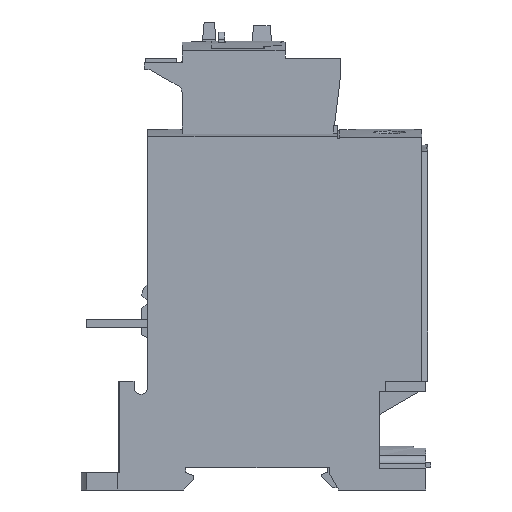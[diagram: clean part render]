
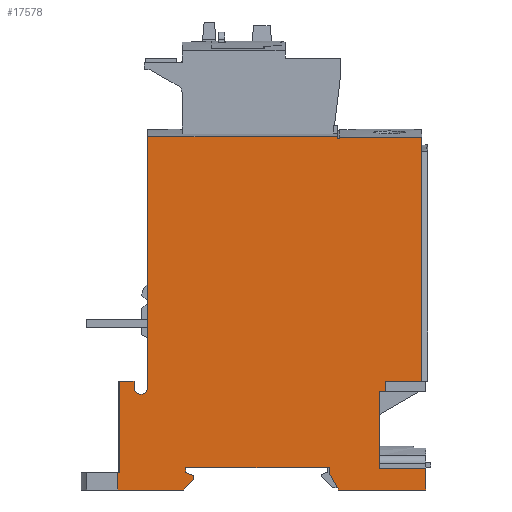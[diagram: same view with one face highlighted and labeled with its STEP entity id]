
A CAD part, left-side view. The second image highlights one B-rep face of the part: STEP entity #17578.
In plain terms, the highlighted planar face has unit normal (-1, 0, 0).
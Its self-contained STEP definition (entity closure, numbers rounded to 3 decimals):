
#695=DIRECTION('',(0.,0.,-1.));
#696=VECTOR('',#695,0.404);
#697=CARTESIAN_POINT('',(0.6,24.8,87.314));
#698=LINE('',#697,#696);
#702=DIRECTION('',(0.,0.,-1.));
#703=VECTOR('',#702,60.394);
#704=CARTESIAN_POINT('',(0.6,4.5,87.314));
#705=LINE('',#704,#703);
#709=DIRECTION('',(0.,1.,0.));
#710=VECTOR('',#709,9.);
#711=CARTESIAN_POINT('',(0.6,4.5,26.92));
#712=LINE('',#711,#710);
#716=DIRECTION('',(0.,1.,0.));
#717=VECTOR('',#716,1.5);
#718=CARTESIAN_POINT('',(0.6,13.5,24.42));
#719=LINE('',#718,#717);
#723=DIRECTION('',(0.,1.,0.));
#724=VECTOR('',#723,16.35);
#725=CARTESIAN_POINT('',(0.6,63.4,0.));
#726=LINE('',#725,#724);
#730=DIRECTION('',(0.,1.,0.));
#731=VECTOR('',#730,20.3);
#732=CARTESIAN_POINT('',(0.6,4.5,87.314));
#733=LINE('',#732,#731);
#2442=DIRECTION('',(0.,0.,1.));
#2443=VECTOR('',#2442,2.5);
#2444=CARTESIAN_POINT('',(0.6,13.5,24.42));
#2445=LINE('',#2444,#2443);
#2627=DIRECTION('',(0.,0.,1.));
#2628=VECTOR('',#2627,19.);
#2629=CARTESIAN_POINT('',(0.6,15.,5.42));
#2630=LINE('',#2629,#2628);
#2876=DIRECTION('',(0.,0.,-1.));
#2877=VECTOR('',#2876,5.42);
#2878=CARTESIAN_POINT('',(0.6,3.5,5.42));
#2879=LINE('',#2878,#2877);
#2941=DIRECTION('',(0.,-1.,0.));
#2942=VECTOR('',#2941,11.5);
#2943=CARTESIAN_POINT('',(0.6,15.,5.42));
#2944=LINE('',#2943,#2942);
#3234=DIRECTION('',(0.,1.,0.));
#3235=VECTOR('',#3234,21.591);
#3236=CARTESIAN_POINT('',(0.6,3.5,0.));
#3237=LINE('',#3236,#3235);
#4061=DIRECTION('',(0.,1.,0.));
#4062=VECTOR('',#4061,0.41);
#4063=CARTESIAN_POINT('',(0.6,79.34,4.3));
#4064=LINE('',#4063,#4062);
#4191=DIRECTION('',(0.,0.,-1.));
#4192=VECTOR('',#4191,4.3);
#4193=CARTESIAN_POINT('',(0.6,79.75,4.3));
#4194=LINE('',#4193,#4192);
#4282=DIRECTION('',(0.,-1.,0.));
#4283=VECTOR('',#4282,35.5);
#4284=CARTESIAN_POINT('',(0.6,62.9,5.5));
#4285=LINE('',#4284,#4283);
#5284=DIRECTION('',(0.,0.,-1.));
#5285=VECTOR('',#5284,62.07);
#5286=CARTESIAN_POINT('',(0.6,72.3,87.43));
#5287=LINE('',#5286,#5285);
#5560=DIRECTION('',(0.,-1.,0.));
#5561=VECTOR('',#5560,3.64);
#5562=CARTESIAN_POINT('',(0.6,79.34,26.956));
#5563=LINE('',#5562,#5561);
#6504=DIRECTION('',(0.,0.,1.));
#6505=VECTOR('',#6504,22.656);
#6506=CARTESIAN_POINT('',(0.6,79.34,4.3));
#6507=LINE('',#6506,#6505);
#6571=DIRECTION('',(0.,0.,1.));
#6572=VECTOR('',#6571,1.596);
#6573=CARTESIAN_POINT('',(0.6,75.7,25.36));
#6574=LINE('',#6573,#6572);
#6599=CARTESIAN_POINT('',(0.6,74.,25.36));
#6600=DIRECTION('',(1.,0.,0.));
#6601=DIRECTION('',(0.,-1.,0.));
#6602=AXIS2_PLACEMENT_3D('',#6599,#6600,#6601);
#6765=DIRECTION('',(0.,0.,1.));
#6766=VECTOR('',#6765,1.1);
#6767=CARTESIAN_POINT('',(0.6,62.9,4.4));
#6768=LINE('',#6767,#6766);
#6821=DIRECTION('',(0.,0.912,0.41));
#6822=VECTOR('',#6821,2.193);
#6823=CARTESIAN_POINT('',(0.6,60.9,3.5));
#6824=LINE('',#6823,#6822);
#6849=DIRECTION('',(0.,0.,1.));
#6850=VECTOR('',#6849,1.);
#6851=CARTESIAN_POINT('',(0.6,60.9,2.5));
#6852=LINE('',#6851,#6850);
#6891=DIRECTION('',(0.,-0.707,0.707));
#6892=VECTOR('',#6891,3.536);
#6893=CARTESIAN_POINT('',(0.6,63.4,0.));
#6894=LINE('',#6893,#6892);
#7334=DIRECTION('',(0.,1.,0.));
#7335=VECTOR('',#7334,47.);
#7336=CARTESIAN_POINT('',(0.6,25.3,87.43));
#7337=LINE('',#7336,#7335);
#8579=DIRECTION('',(0.,0.,1.));
#8580=VECTOR('',#8579,0.52);
#8581=CARTESIAN_POINT('',(0.6,25.3,86.91));
#8582=LINE('',#8581,#8580);
#8622=DIRECTION('',(0.,-1.,0.));
#8623=VECTOR('',#8622,0.5);
#8624=CARTESIAN_POINT('',(0.6,25.3,86.91));
#8625=LINE('',#8624,#8623);
#12195=DIRECTION('',(0.,0.,-1.));
#12196=VECTOR('',#12195,1.5);
#12197=CARTESIAN_POINT('',(0.6,27.4,5.5));
#12198=LINE('',#12197,#12196);
#12237=DIRECTION('',(0.,-0.5,-0.866));
#12238=VECTOR('',#12237,4.619);
#12239=CARTESIAN_POINT('',(0.6,27.4,4.));
#12240=LINE('',#12239,#12238);
#15345=CARTESIAN_POINT('',(0.6,3.5,0.));
#15346=CARTESIAN_POINT('',(0.6,25.091,0.));
#15347=VERTEX_POINT('',#15345);
#15348=VERTEX_POINT('',#15346);
#15353=CARTESIAN_POINT('',(0.6,79.34,4.3));
#15354=CARTESIAN_POINT('',(0.6,79.75,4.3));
#15355=VERTEX_POINT('',#15353);
#15356=VERTEX_POINT('',#15354);
#15361=CARTESIAN_POINT('',(0.6,79.34,26.956));
#15362=VERTEX_POINT('',#15361);
#15365=CARTESIAN_POINT('',(0.6,72.3,87.43));
#15366=CARTESIAN_POINT('',(0.6,72.3,25.36));
#15367=VERTEX_POINT('',#15365);
#15368=VERTEX_POINT('',#15366);
#15373=CARTESIAN_POINT('',(0.6,75.7,26.956));
#15374=VERTEX_POINT('',#15373);
#15377=CARTESIAN_POINT('',(0.6,25.3,87.43));
#15378=VERTEX_POINT('',#15377);
#15381=CARTESIAN_POINT('',(0.6,63.4,0.));
#15382=CARTESIAN_POINT('',(0.6,60.9,2.5));
#15383=VERTEX_POINT('',#15381);
#15384=VERTEX_POINT('',#15382);
#15389=CARTESIAN_POINT('',(0.6,60.9,3.5));
#15390=VERTEX_POINT('',#15389);
#15393=CARTESIAN_POINT('',(0.6,62.9,4.4));
#15394=VERTEX_POINT('',#15393);
#15397=CARTESIAN_POINT('',(0.6,62.9,5.5));
#15398=VERTEX_POINT('',#15397);
#15401=CARTESIAN_POINT('',(0.6,27.4,5.5));
#15402=VERTEX_POINT('',#15401);
#15405=CARTESIAN_POINT('',(0.6,27.4,4.));
#15406=VERTEX_POINT('',#15405);
#15409=CARTESIAN_POINT('',(0.6,15.,5.42));
#15410=CARTESIAN_POINT('',(0.6,3.5,5.42));
#15411=VERTEX_POINT('',#15409);
#15412=VERTEX_POINT('',#15410);
#15417=CARTESIAN_POINT('',(0.6,79.75,0.));
#15418=VERTEX_POINT('',#15417);
#15421=CARTESIAN_POINT('',(0.6,75.7,25.36));
#15422=VERTEX_POINT('',#15421);
#15425=CARTESIAN_POINT('',(0.6,25.3,86.91));
#15426=VERTEX_POINT('',#15425);
#15437=CARTESIAN_POINT('',(0.6,13.5,24.42));
#15438=VERTEX_POINT('',#15437);
#15439=CARTESIAN_POINT('',(0.6,15.,24.42));
#15440=VERTEX_POINT('',#15439);
#15866=CARTESIAN_POINT('',(0.6,24.8,87.314));
#15868=VERTEX_POINT('',#15866);
#15869=CARTESIAN_POINT('',(0.6,24.8,86.91));
#15870=VERTEX_POINT('',#15869);
#15879=CARTESIAN_POINT('',(0.6,13.5,26.92));
#15880=VERTEX_POINT('',#15879);
#16577=CARTESIAN_POINT('',(0.6,4.5,87.314));
#16578=CARTESIAN_POINT('',(0.6,4.5,26.92));
#16579=VERTEX_POINT('',#16577);
#16580=VERTEX_POINT('',#16578);
#17518=CARTESIAN_POINT('',(0.6,1.2,-31.63));
#17519=DIRECTION('',(1.,0.,0.));
#17520=DIRECTION('',(0.,1.,0.));
#17521=AXIS2_PLACEMENT_3D('',#17518,#17519,#17520);
#17522=PLANE('',#17521);
#17523=ORIENTED_EDGE('',*,*,#17437,.T.);
#17525=ORIENTED_EDGE('',*,*,#17524,.T.);
#17527=ORIENTED_EDGE('',*,*,#17526,.F.);
#17529=ORIENTED_EDGE('',*,*,#17528,.T.);
#17531=ORIENTED_EDGE('',*,*,#17530,.F.);
#17533=ORIENTED_EDGE('',*,*,#17532,.T.);
#17535=ORIENTED_EDGE('',*,*,#17534,.T.);
#17537=ORIENTED_EDGE('',*,*,#17536,.T.);
#17539=ORIENTED_EDGE('',*,*,#17538,.F.);
#17541=ORIENTED_EDGE('',*,*,#17540,.F.);
#17543=ORIENTED_EDGE('',*,*,#17542,.F.);
#17545=ORIENTED_EDGE('',*,*,#17544,.F.);
#17547=ORIENTED_EDGE('',*,*,#17546,.F.);
#17549=ORIENTED_EDGE('',*,*,#17548,.F.);
#17551=ORIENTED_EDGE('',*,*,#17550,.F.);
#17553=ORIENTED_EDGE('',*,*,#17552,.T.);
#17555=ORIENTED_EDGE('',*,*,#17554,.F.);
#17557=ORIENTED_EDGE('',*,*,#17556,.F.);
#17559=ORIENTED_EDGE('',*,*,#17558,.T.);
#17561=ORIENTED_EDGE('',*,*,#17560,.T.);
#17563=ORIENTED_EDGE('',*,*,#17562,.F.);
#17565=ORIENTED_EDGE('',*,*,#17564,.F.);
#17567=ORIENTED_EDGE('',*,*,#17566,.F.);
#17569=ORIENTED_EDGE('',*,*,#17568,.F.);
#17571=ORIENTED_EDGE('',*,*,#17570,.F.);
#17573=ORIENTED_EDGE('',*,*,#17572,.T.);
#17574=ORIENTED_EDGE('',*,*,#17507,.F.);
#17575=ORIENTED_EDGE('',*,*,#16654,.F.);
#17576=EDGE_LOOP('',(#17523,#17525,#17527,#17529,#17531,#17533,#17535,#17537,
#17539,#17541,#17543,#17545,#17547,#17549,#17551,#17553,#17555,#17557,#17559,
#17561,#17563,#17565,#17567,#17569,#17571,#17573,#17574,#17575));
#17577=FACE_OUTER_BOUND('',#17576,.F.);
#6603=CIRCLE('',#6602,1.7);
#16654=EDGE_CURVE('',#16579,#15868,#733,.T.);
#17437=EDGE_CURVE('',#16579,#16580,#705,.T.);
#17507=EDGE_CURVE('',#15868,#15870,#698,.T.);
#17524=EDGE_CURVE('',#16580,#15880,#712,.T.);
#17526=EDGE_CURVE('',#15438,#15880,#2445,.T.);
#17528=EDGE_CURVE('',#15438,#15440,#719,.T.);
#17530=EDGE_CURVE('',#15411,#15440,#2630,.T.);
#17532=EDGE_CURVE('',#15411,#15412,#2944,.T.);
#17534=EDGE_CURVE('',#15412,#15347,#2879,.T.);
#17536=EDGE_CURVE('',#15347,#15348,#3237,.T.);
#17538=EDGE_CURVE('',#15406,#15348,#12240,.T.);
#17540=EDGE_CURVE('',#15402,#15406,#12198,.T.);
#17542=EDGE_CURVE('',#15398,#15402,#4285,.T.);
#17544=EDGE_CURVE('',#15394,#15398,#6768,.T.);
#17546=EDGE_CURVE('',#15390,#15394,#6824,.T.);
#17548=EDGE_CURVE('',#15384,#15390,#6852,.T.);
#17550=EDGE_CURVE('',#15383,#15384,#6894,.T.);
#17552=EDGE_CURVE('',#15383,#15418,#726,.T.);
#17554=EDGE_CURVE('',#15356,#15418,#4194,.T.);
#17556=EDGE_CURVE('',#15355,#15356,#4064,.T.);
#17558=EDGE_CURVE('',#15355,#15362,#6507,.T.);
#17560=EDGE_CURVE('',#15362,#15374,#5563,.T.);
#17562=EDGE_CURVE('',#15422,#15374,#6574,.T.);
#17564=EDGE_CURVE('',#15368,#15422,#6603,.T.);
#17566=EDGE_CURVE('',#15367,#15368,#5287,.T.);
#17568=EDGE_CURVE('',#15378,#15367,#7337,.T.);
#17570=EDGE_CURVE('',#15426,#15378,#8582,.T.);
#17572=EDGE_CURVE('',#15426,#15870,#8625,.T.);
#17578=ADVANCED_FACE('',(#17577),#17522,.F.);
